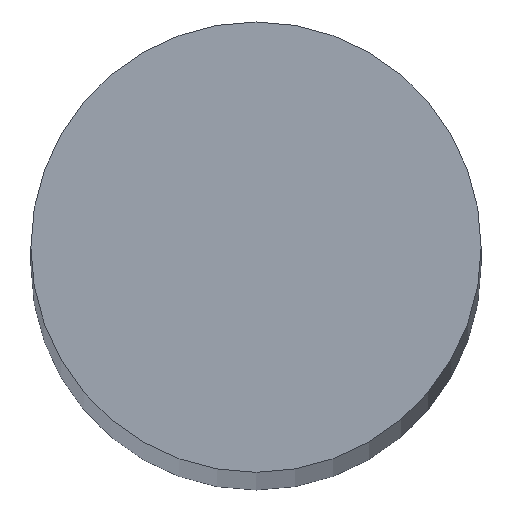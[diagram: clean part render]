
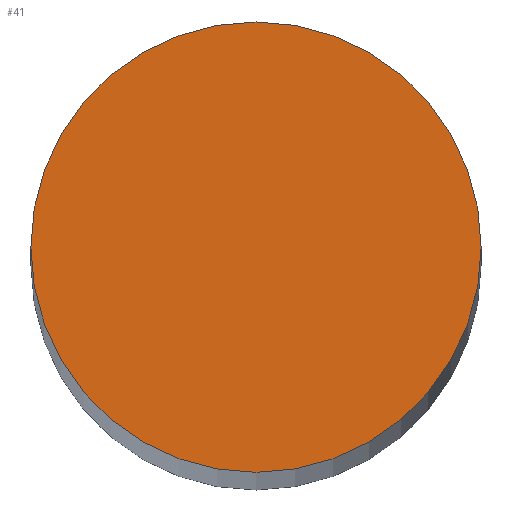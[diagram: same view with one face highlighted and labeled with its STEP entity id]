
A CAD part, top view. The second image highlights one B-rep face of the part: STEP entity #41.
In plain terms, the highlighted planar face has unit normal (0, 0, 1).
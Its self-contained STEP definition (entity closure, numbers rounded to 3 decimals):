
#16=PLANE('',#66);
#19=FACE_OUTER_BOUND('',#22,.T.);
#22=EDGE_LOOP('',(#37));
#25=CIRCLE('',#63,10.);
#27=VERTEX_POINT('',#82);
#29=EDGE_CURVE('',#27,#27,#25,.T.);
#37=ORIENTED_EDGE('',*,*,#29,.T.);
#41=ADVANCED_FACE('',(#19),#16,.T.);
#63=AXIS2_PLACEMENT_3D('',#83,#71,#72);
#66=AXIS2_PLACEMENT_3D('',#88,#78,#79);
#71=DIRECTION('center_axis',(0.,0.,1.));
#72=DIRECTION('ref_axis',(-1.,0.,0.));
#78=DIRECTION('center_axis',(0.,0.,1.));
#79=DIRECTION('ref_axis',(1.,0.,0.));
#82=CARTESIAN_POINT('',(10.,0.,450.));
#83=CARTESIAN_POINT('Origin',(0.,0.,450.));
#88=CARTESIAN_POINT('Origin',(0.,0.,450.));
